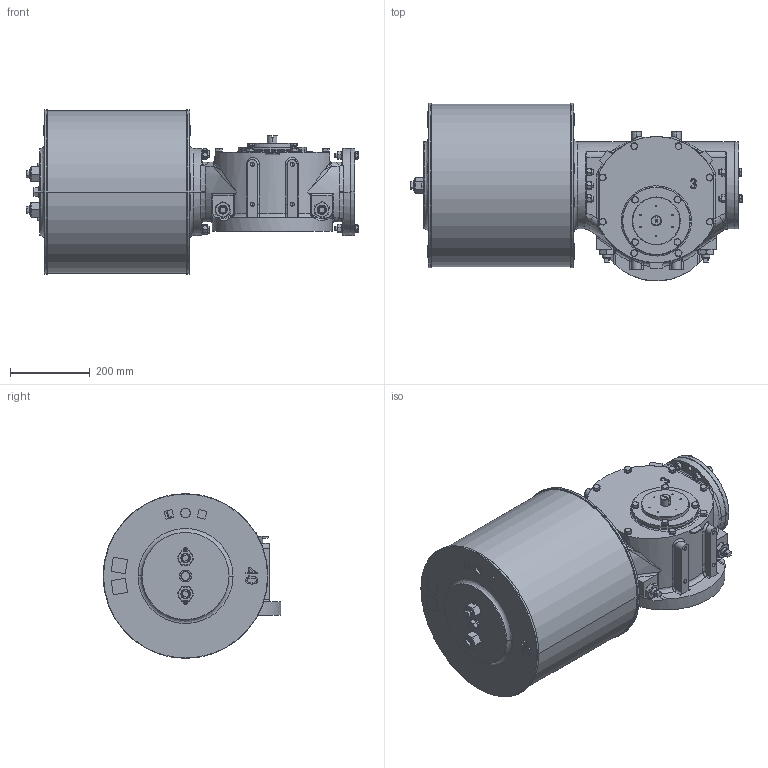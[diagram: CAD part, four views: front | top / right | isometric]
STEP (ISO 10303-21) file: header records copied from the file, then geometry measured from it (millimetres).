
FILE_DESCRIPTION (( 'STEP AP203' ), '1' );
FILE_NAME ('VTS3-400.STEP', '2023-01-01T09:10:00', ( '' ), ( '' ), 'SwSTEP 2.0', 'SolidWorks 2020', '' );
FILE_SCHEMA (( 'CONFIG_CONTROL_DESIGN' ));
Length unit declared in the file: millimetre
Products named in the file (1): VTS3-400
Bounding box: 831.68 x 445.5 x 413 mm (x, y, z)
Volume: 67407642 mm3; surface area: 1424334.1 mm2
Topology: 1 solids, 6 shells, 1666 faces, 4298 edges, 2711 vertices
Faces by surface type: plane 713, cylinder 463, cone 349, bspline 141
Entity records: 66056 total; most frequent: CARTESIAN_POINT 27000, ORIENTED_EDGE 8498, DIRECTION 7768, EDGE_CURVE 4249, AXIS2_PLACEMENT_3D 3023, VERTEX_POINT 2711, EDGE_LOOP 1836, LINE 1722
